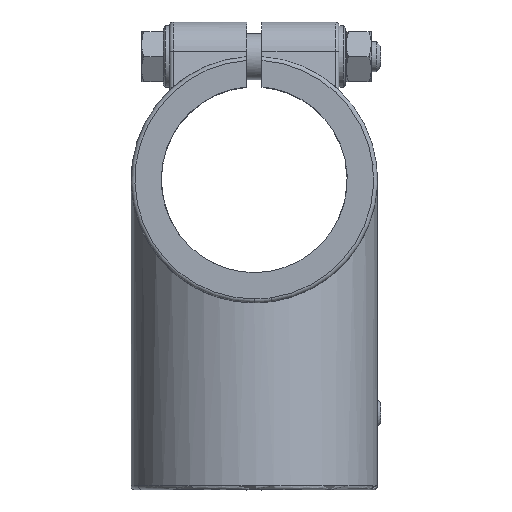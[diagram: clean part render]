
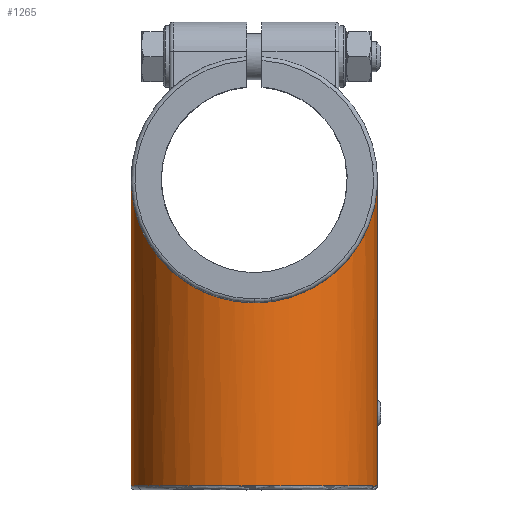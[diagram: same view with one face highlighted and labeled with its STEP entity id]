
A CAD part, top view. The second image highlights one B-rep face of the part: STEP entity #1265.
In plain terms, the highlighted cylindrical face has radius 32 mm (diameter 64 mm), a partial arc.
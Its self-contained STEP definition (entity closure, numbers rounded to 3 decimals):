
#407=CARTESIAN_POINT('Vertex',(0.,32.,0.)) ;
#411=CARTESIAN_POINT('Control Point',(0.,32.,0.)) ;
#412=CARTESIAN_POINT('Control Point',(0.148,32.,-0.148)) ;
#413=CARTESIAN_POINT('Control Point',(0.295,31.999,-0.295)) ;
#414=CARTESIAN_POINT('Control Point',(0.477,31.997,-0.477)) ;
#415=CARTESIAN_POINT('Control Point',(0.811,31.991,-0.811)) ;
#416=CARTESIAN_POINT('Control Point',(1.147,31.98,-1.148)) ;
#417=CARTESIAN_POINT('Control Point',(1.336,31.973,-1.336)) ;
#418=CARTESIAN_POINT('Control Point',(1.56,31.962,-1.56)) ;
#419=CARTESIAN_POINT('Control Point',(1.772,31.951,-1.772)) ;
#420=CARTESIAN_POINT('Control Point',(1.84,31.947,-1.84)) ;
#421=CARTESIAN_POINT('Control Point',(2.898,31.885,-2.898)) ;
#422=CARTESIAN_POINT('Control Point',(3.956,31.778,-3.956)) ;
#423=CARTESIAN_POINT('Control Point',(4.944,31.639,-4.944)) ;
#424=CARTESIAN_POINT('Control Point',(7.272,31.22,-7.272)) ;
#425=CARTESIAN_POINT('Control Point',(9.576,30.581,-9.576)) ;
#426=CARTESIAN_POINT('Control Point',(10.894,30.137,-10.894)) ;
#427=CARTESIAN_POINT('Control Point',(13.836,28.966,-13.836)) ;
#428=CARTESIAN_POINT('Control Point',(16.685,27.396,-16.685)) ;
#429=CARTESIAN_POINT('Control Point',(18.235,26.395,-18.235)) ;
#430=CARTESIAN_POINT('Control Point',(21.725,23.762,-21.725)) ;
#431=CARTESIAN_POINT('Control Point',(24.885,20.38,-24.885)) ;
#432=CARTESIAN_POINT('Control Point',(26.55,18.192,-26.55)) ;
#433=CARTESIAN_POINT('Control Point',(29.289,13.611,-29.289)) ;
#434=CARTESIAN_POINT('Control Point',(31.103,8.204,-31.103)) ;
#435=CARTESIAN_POINT('Control Point',(31.702,5.528,-31.702)) ;
#436=CARTESIAN_POINT('Control Point',(32.,2.764,-32.)) ;
#437=CARTESIAN_POINT('Control Point',(32.,0.,-32.)) ;
#438=CARTESIAN_POINT('Vertex',(32.,0.,-32.)) ;
#712=CARTESIAN_POINT('Control Point',(0.,-32.,0.)) ;
#713=CARTESIAN_POINT('Control Point',(0.147,-32.,-0.147)) ;
#714=CARTESIAN_POINT('Control Point',(0.295,-31.999,-0.295)) ;
#715=CARTESIAN_POINT('Control Point',(0.477,-31.997,-0.477)) ;
#716=CARTESIAN_POINT('Control Point',(0.811,-31.991,-0.811)) ;
#717=CARTESIAN_POINT('Control Point',(1.147,-31.98,-1.147)) ;
#718=CARTESIAN_POINT('Control Point',(1.336,-31.973,-1.336)) ;
#719=CARTESIAN_POINT('Control Point',(1.559,-31.962,-1.559)) ;
#720=CARTESIAN_POINT('Control Point',(1.772,-31.951,-1.772)) ;
#721=CARTESIAN_POINT('Control Point',(1.839,-31.947,-1.839)) ;
#722=CARTESIAN_POINT('Control Point',(2.898,-31.885,-2.898)) ;
#723=CARTESIAN_POINT('Control Point',(3.955,-31.778,-3.955)) ;
#724=CARTESIAN_POINT('Control Point',(4.943,-31.64,-4.943)) ;
#725=CARTESIAN_POINT('Control Point',(7.272,-31.22,-7.271)) ;
#726=CARTESIAN_POINT('Control Point',(9.575,-30.581,-9.575)) ;
#727=CARTESIAN_POINT('Control Point',(10.894,-30.137,-10.894)) ;
#728=CARTESIAN_POINT('Control Point',(13.836,-28.966,-13.836)) ;
#729=CARTESIAN_POINT('Control Point',(16.685,-27.397,-16.685)) ;
#730=CARTESIAN_POINT('Control Point',(18.234,-26.396,-18.234)) ;
#731=CARTESIAN_POINT('Control Point',(21.724,-23.762,-21.724)) ;
#732=CARTESIAN_POINT('Control Point',(24.885,-20.38,-24.885)) ;
#733=CARTESIAN_POINT('Control Point',(26.549,-18.193,-26.549)) ;
#734=CARTESIAN_POINT('Control Point',(29.289,-13.612,-29.289)) ;
#735=CARTESIAN_POINT('Control Point',(31.103,-8.204,-31.103)) ;
#736=CARTESIAN_POINT('Control Point',(31.702,-5.528,-31.702)) ;
#737=CARTESIAN_POINT('Control Point',(32.,-2.764,-32.)) ;
#738=CARTESIAN_POINT('Control Point',(32.,0.,-32.)) ;
#739=CARTESIAN_POINT('Vertex',(0.,-32.,0.)) ;
#1059=CARTESIAN_POINT('Vertex',(79.5,32.,0.)) ;
#1062=CARTESIAN_POINT('Line Origine',(23.59,32.,0.)) ;
#1067=CARTESIAN_POINT('Line Origine',(23.59,-32.,0.)) ;
#1071=CARTESIAN_POINT('Vertex',(79.5,-32.,0.)) ;
#1226=CARTESIAN_POINT('Axis2P3D Location',(23.59,0.,0.)) ;
#1232=CARTESIAN_POINT('Control Point',(79.5,30.079,-10.921)) ;
#1233=CARTESIAN_POINT('Control Point',(79.5,31.03,-8.302)) ;
#1234=CARTESIAN_POINT('Control Point',(79.5,31.677,-5.573)) ;
#1235=CARTESIAN_POINT('Control Point',(79.5,32.,-2.786)) ;
#1236=CARTESIAN_POINT('Control Point',(79.5,32.,0.)) ;
#1237=CARTESIAN_POINT('Vertex',(79.5,30.079,-10.921)) ;
#1241=CARTESIAN_POINT('Control Point',(79.5,-32.,0.)) ;
#1242=CARTESIAN_POINT('Control Point',(79.5,-32.,-4.469)) ;
#1243=CARTESIAN_POINT('Control Point',(79.5,-31.22,-8.939)) ;
#1244=CARTESIAN_POINT('Control Point',(79.5,-29.659,-13.226)) ;
#1245=CARTESIAN_POINT('Control Point',(79.5,-25.107,-21.076)) ;
#1246=CARTESIAN_POINT('Control Point',(79.5,-18.165,-26.919)) ;
#1247=CARTESIAN_POINT('Control Point',(79.5,-14.213,-29.199)) ;
#1248=CARTESIAN_POINT('Control Point',(79.5,-5.68,-32.284)) ;
#1249=CARTESIAN_POINT('Control Point',(79.5,3.394,-32.296)) ;
#1250=CARTESIAN_POINT('Control Point',(79.5,7.887,-31.502)) ;
#1251=CARTESIAN_POINT('Control Point',(79.5,16.407,-28.379)) ;
#1252=CARTESIAN_POINT('Control Point',(79.5,23.364,-22.554)) ;
#1253=CARTESIAN_POINT('Control Point',(79.5,26.295,-19.057)) ;
#1254=CARTESIAN_POINT('Control Point',(79.5,28.553,-15.122)) ;
#1255=CARTESIAN_POINT('Control Point',(79.5,30.079,-10.921)) ;
#1063=DIRECTION('Vector Direction',(1.,0.,0.)) ;
#1068=DIRECTION('Vector Direction',(1.,0.,0.)) ;
#1227=DIRECTION('Axis2P3D Direction',(1.,0.,0.)) ;
#1228=DIRECTION('Axis2P3D XDirection',(0.,-1.,0.)) ;
#1229=AXIS2_PLACEMENT_3D('Cylinder Axis2P3D',#1226,#1227,#1228) ;
#1258=ORIENTED_EDGE('',*,*,#1073,.T.) ;
#1259=ORIENTED_EDGE('',*,*,#741,.T.) ;
#1260=ORIENTED_EDGE('',*,*,#440,.F.) ;
#1261=ORIENTED_EDGE('',*,*,#1066,.F.) ;
#1262=ORIENTED_EDGE('',*,*,#1239,.F.) ;
#1263=ORIENTED_EDGE('',*,*,#1256,.F.) ;
#1064=VECTOR('Line Direction',#1063,1.) ;
#1069=VECTOR('Line Direction',#1068,1.) ;
#1265=ADVANCED_FACE('PartBody',(#1264),#1230,.T.) ;
#410=B_SPLINE_CURVE_WITH_KNOTS('',5,(#411,#412,#413,#414,#415,#416,#417,#418,#419,#420,#421,#422,#423,#424,#425,#426,#427,#428,#429,#430,#431,#432,#433,#434,#435,#436,#437),.UNSPECIFIED.,.F.,.U.,(6,3,3,3,3,3,3,3,6),(0.,1.483,2.956,3.635,13.609,27.217,44.306,66.894,86.542),.UNSPECIFIED.) ;
#711=B_SPLINE_CURVE_WITH_KNOTS('',5,(#712,#713,#714,#715,#716,#717,#718,#719,#720,#721,#722,#723,#724,#725,#726,#727,#728,#729,#730,#731,#732,#733,#734,#735,#736,#737,#738),.UNSPECIFIED.,.F.,.U.,(6,3,3,3,3,3,3,3,6),(0.,1.483,2.956,3.635,13.608,27.217,44.306,66.893,86.542),.UNSPECIFIED.) ;
#1231=B_SPLINE_CURVE_WITH_KNOTS('',4,(#1232,#1233,#1234,#1235,#1236),.UNSPECIFIED.,.F.,.U.,(5,5),(39.12,50.265),.UNSPECIFIED.) ;
#1240=B_SPLINE_CURVE_WITH_KNOTS('',5,(#1241,#1242,#1243,#1244,#1245,#1246,#1247,#1248,#1249,#1250,#1251,#1252,#1253,#1254,#1255),.UNSPECIFIED.,.F.,.U.,(6,3,3,3,6),(-50.265,-27.919,-5.573,16.774,39.12),.UNSPECIFIED.) ;
#1230=CYLINDRICAL_SURFACE('generated cylinder',#1229,32.) ;
#440=EDGE_CURVE('',#408,#439,#410,.T.) ;
#741=EDGE_CURVE('',#740,#439,#711,.T.) ;
#1066=EDGE_CURVE('',#1060,#408,#1065,.F.) ;
#1073=EDGE_CURVE('',#1072,#740,#1070,.F.) ;
#1239=EDGE_CURVE('',#1238,#1060,#1231,.T.) ;
#1256=EDGE_CURVE('',#1072,#1238,#1240,.T.) ;
#1257=EDGE_LOOP('',(#1258,#1259,#1260,#1261,#1262,#1263)) ;
#1264=FACE_OUTER_BOUND('',#1257,.T.) ;
#1065=LINE('Line',#1062,#1064) ;
#1070=LINE('Line',#1067,#1069) ;
#408=VERTEX_POINT('',#407) ;
#439=VERTEX_POINT('',#438) ;
#740=VERTEX_POINT('',#739) ;
#1060=VERTEX_POINT('',#1059) ;
#1072=VERTEX_POINT('',#1071) ;
#1238=VERTEX_POINT('',#1237) ;
